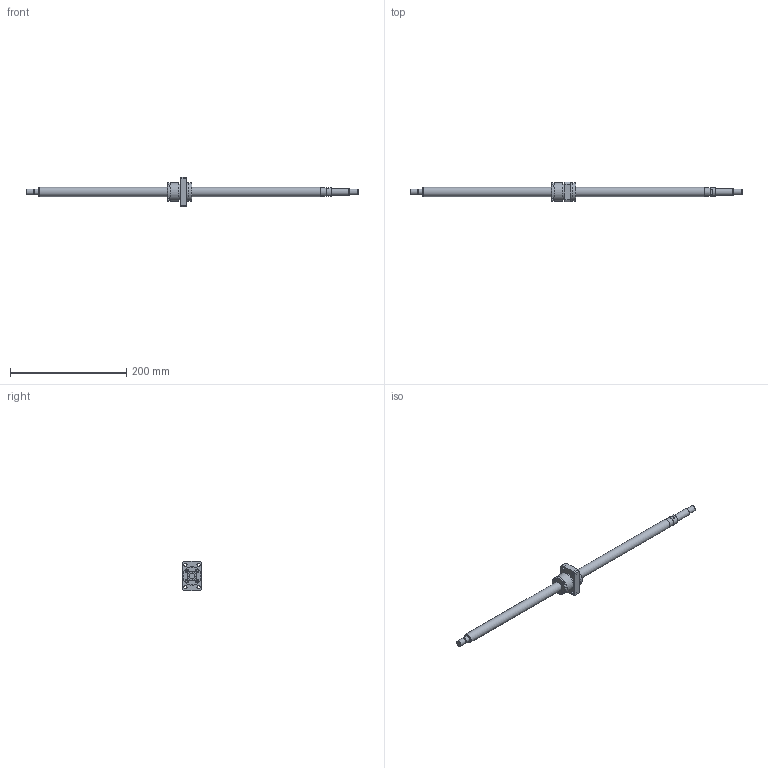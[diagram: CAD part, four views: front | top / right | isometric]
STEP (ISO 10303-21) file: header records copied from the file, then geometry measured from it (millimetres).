
FILE_DESCRIPTION(/* description */ ('STEP AP203'),/* implementation_level */ '2;1');
FILE_NAME(/* name */ 'BNK1616-3.6G0+571LC5Y(2630)',/* time_stamp */ '2024-07-09T09:29:35+02:00',/* author */ ('License CC BY-ND 4.0'),/* organization */ ('CADENAS'),/* preprocessor_version */ 'ST-DEVELOPER v19.3',/* originating_system */ 'PARTsolutions',/* authorisation */ ' ');
FILE_SCHEMA (('CONFIG_CONTROL_DESIGN'));
Length unit declared in the file: millimetre
Products named in the file (3): BNK1616-3.6G0+571LC5Y(2630); BNK 1616-3.6G0+571LC5Y Shaft; BNK 1616-3.6G0+571LC5Y0 Nut
Assembly tree (2 placements, depth 2):
  BNK1616-3.6G0+571LC5Y(2630)
    BNK 1616-3.6G0+571LC5Y Shaft
    BNK 1616-3.6G0+571LC5Y0 Nut
Bounding box: 571 x 34 x 50 mm (x, y, z)
Volume: 138131.7 mm3; surface area: 39317.2 mm2
Topology: 2 solids, 2 shells, 136 faces, 312 edges, 202 vertices
Faces by surface type: plane 75, cylinder 35, cone 20, torus 6
Full cylindrical faces by diameter (mm): 5.188 x1, 5.5 x8, 9.5 x4, 9.6 x1, 10 x3, 12 x1, 14 x1, 15 x1, 16 x2, 28.8 x1, 31.8 x2, 32 x2
Entity records: 3705 total; most frequent: CARTESIAN_POINT 676, DIRECTION 626, ORIENTED_EDGE 530, EDGE_CURVE 265, AXIS2_PLACEMENT_3D 247, FACE_BOUND 210, EDGE_LOOP 209, VERTEX_POINT 197
